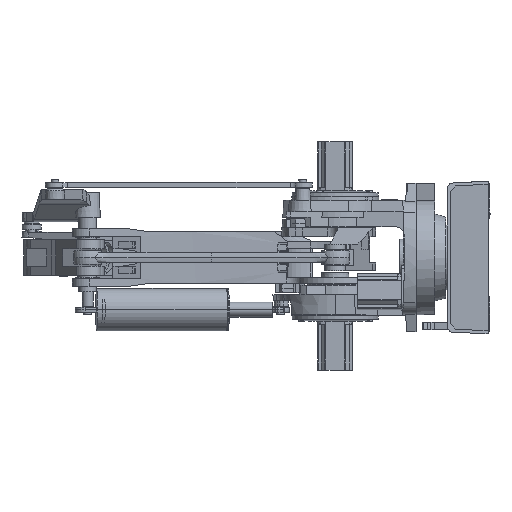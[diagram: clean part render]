
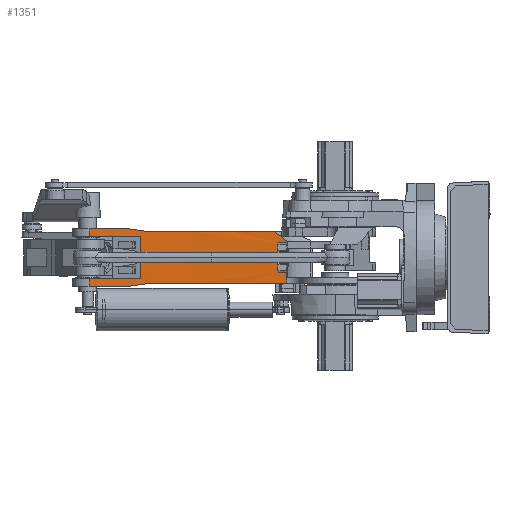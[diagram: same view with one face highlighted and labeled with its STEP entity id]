
A CAD part, left-side view. The second image highlights one B-rep face of the part: STEP entity #1351.
In plain terms, the highlighted cylindrical face has radius 8500 mm (diameter 17000 mm), a partial arc.
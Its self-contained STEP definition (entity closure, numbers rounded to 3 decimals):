
#1351=ADVANCED_FACE('',(#4245),#4246,.F.);
#4245=FACE_OUTER_BOUND('',#9893,.T.);
#4246=CYLINDRICAL_SURFACE('',#9894,8500.0);
#9893=EDGE_LOOP('',(#24427,#24428,#24429,#24430,#24431,#24432,#24433,#24434,#24435,#24436,#24437,#24438,#24439,#24440,#24441,#24442,#24443));
#9894=AXIS2_PLACEMENT_3D('',#24444,#24445,#24446);
#24427=ORIENTED_EDGE('',*,*,#30933,.F.);
#24428=ORIENTED_EDGE('',*,*,#30934,.F.);
#24429=ORIENTED_EDGE('',*,*,#30909,.T.);
#24430=ORIENTED_EDGE('',*,*,#30911,.T.);
#24431=ORIENTED_EDGE('',*,*,#30913,.F.);
#24432=ORIENTED_EDGE('',*,*,#30915,.F.);
#24433=ORIENTED_EDGE('',*,*,#30817,.F.);
#24434=ORIENTED_EDGE('',*,*,#30921,.F.);
#24435=ORIENTED_EDGE('',*,*,#30935,.F.);
#24436=ORIENTED_EDGE('',*,*,#30927,.F.);
#24437=ORIENTED_EDGE('',*,*,#30821,.F.);
#24438=ORIENTED_EDGE('',*,*,#30931,.F.);
#24439=ORIENTED_EDGE('',*,*,#30872,.F.);
#24440=ORIENTED_EDGE('',*,*,#30877,.F.);
#24441=ORIENTED_EDGE('',*,*,#30936,.F.);
#24442=ORIENTED_EDGE('',*,*,#30937,.F.);
#24443=ORIENTED_EDGE('',*,*,#30938,.F.);
#24444=CARTESIAN_POINT('',(-8237.697,1239.18,132.5));
#24445=DIRECTION('',(0.0,0.,1.0));
#24446=DIRECTION('',(0.0,1.0,0.));
#30817=EDGE_CURVE('',#37005,#37001,#37007,.T.);
#30821=EDGE_CURVE('',#37013,#37009,#37015,.T.);
#30872=EDGE_CURVE('',#37114,#37116,#37117,.T.);
#30877=EDGE_CURVE('',#37122,#37114,#37124,.T.);
#30909=EDGE_CURVE('',#37179,#37182,#37184,.T.);
#30911=EDGE_CURVE('',#37182,#37185,#37187,.T.);
#30913=EDGE_CURVE('',#37188,#37185,#37190,.T.);
#30915=EDGE_CURVE('',#37001,#37188,#37192,.T.);
#30921=EDGE_CURVE('',#37199,#37005,#37201,.T.);
#30927=EDGE_CURVE('',#37009,#37209,#37210,.T.);
#30931=EDGE_CURVE('',#37116,#37013,#37214,.T.);
#30933=EDGE_CURVE('',#37216,#37217,#37218,.T.);
#30934=EDGE_CURVE('',#37179,#37216,#37219,.T.);
#30935=EDGE_CURVE('',#37209,#37199,#37220,.T.);
#30936=EDGE_CURVE('',#37221,#37122,#37222,.T.);
#30937=EDGE_CURVE('',#37223,#37221,#37224,.T.);
#30938=EDGE_CURVE('',#37217,#37223,#37225,.T.);
#37001=VERTEX_POINT('',#50010);
#37005=VERTEX_POINT('',#50015);
#37007=LINE('',#50017,#50018);
#37009=VERTEX_POINT('',#50020);
#37013=VERTEX_POINT('',#50025);
#37015=LINE('',#50027,#50028);
#37114=VERTEX_POINT('',#50178);
#37116=VERTEX_POINT('',#50181);
#37117=B_SPLINE_CURVE_WITH_KNOTS('',3,(#50182,#50183,#50184,#50185),.UNSPECIFIED.,.F.,.F.,(4,4),(0.0,1.0),.UNSPECIFIED.);
#37122=VERTEX_POINT('',#50191);
#37124=CIRCLE('',#50193,8500.0);
#37179=VERTEX_POINT('',#50272);
#37182=VERTEX_POINT('',#50288);
#37184=B_SPLINE_CURVE_WITH_KNOTS('',3,(#50300,#50301,#50302,#50303,#50304,#50305,#50306,#50307),.UNSPECIFIED.,.F.,.F.,(4,2,2,4),(0.,0.019,0.038,0.077),.UNSPECIFIED.);
#37185=VERTEX_POINT('',#50308);
#37187=CIRCLE('',#50311,8500.0);
#37188=VERTEX_POINT('',#50312);
#37190=B_SPLINE_CURVE_WITH_KNOTS('',3,(#50315,#50316,#50317,#50318),.UNSPECIFIED.,.F.,.F.,(4,4),(0.0,1.0),.UNSPECIFIED.);
#37192=CIRCLE('',#50320,8500.0);
#37199=VERTEX_POINT('',#50329);
#37201=CIRCLE('',#50332,8500.0);
#37209=VERTEX_POINT('',#50343);
#37210=CIRCLE('',#50344,8500.0);
#37214=CIRCLE('',#50349,8500.0);
#37216=VERTEX_POINT('',#50351);
#37217=VERTEX_POINT('',#50352);
#37218=B_SPLINE_CURVE_WITH_KNOTS('',3,(#50353,#50354,#50355,#50356),.UNSPECIFIED.,.F.,.F.,(4,4),(0.0,1.0),.UNSPECIFIED.);
#37219=LINE('',#50357,#50358);
#37220=LINE('',#50359,#50360);
#37221=VERTEX_POINT('',#50361);
#37222=LINE('',#50362,#50363);
#37223=VERTEX_POINT('',#50364);
#37224=B_SPLINE_CURVE_WITH_KNOTS('',3,(#50365,#50366,#50367,#50368),.UNSPECIFIED.,.F.,.F.,(4,4),(0.0,1.0),.UNSPECIFIED.);
#37225=LINE('',#50369,#50370);
#50010=CARTESIAN_POINT('',(221.38,2072.257,148.));
#50015=CARTESIAN_POINT('',(221.38,2072.257,110.));
#50017=CARTESIAN_POINT('',(221.38,2072.257,132.5));
#50018=VECTOR('',#59554,1000.0);
#50020=CARTESIAN_POINT('',(221.38,2072.257,-110.));
#50025=CARTESIAN_POINT('',(221.38,2072.257,-148.));
#50027=CARTESIAN_POINT('',(221.38,2072.257,132.5));
#50028=VECTOR('',#59562,1000.0);
#50178=CARTESIAN_POINT('',(246.638,1755.0,-132.5));
#50181=CARTESIAN_POINT('',(239.213,1865.288,-148.));
#50182=CARTESIAN_POINT('',(246.638,1755.0,-132.5));
#50183=CARTESIAN_POINT('',(244.402,1791.779,-137.669));
#50184=CARTESIAN_POINT('',(241.927,1828.542,-142.836));
#50185=CARTESIAN_POINT('',(239.213,1865.288,-148.));
#50191=CARTESIAN_POINT('',(260.228,1051.331,-132.5));
#50193=AXIS2_PLACEMENT_3D('',#59668,#59669,#59670);
#50272=CARTESIAN_POINT('',(260.228,1051.331,86.226));
#50288=CARTESIAN_POINT('',(261.361,1112.621,132.5));
#50300=CARTESIAN_POINT('',(260.228,1051.331,86.226));
#50301=CARTESIAN_POINT('',(260.337,1056.292,90.272));
#50302=CARTESIAN_POINT('',(260.444,1061.302,94.254));
#50303=CARTESIAN_POINT('',(260.649,1071.401,102.12));
#50304=CARTESIAN_POINT('',(260.748,1076.49,106.005));
#50305=CARTESIAN_POINT('',(261.033,1091.842,117.538));
#50306=CARTESIAN_POINT('',(261.206,1102.195,125.071));
#50307=CARTESIAN_POINT('',(261.361,1112.621,132.5));
#50308=CARTESIAN_POINT('',(246.638,1755.0,132.5));
#50311=AXIS2_PLACEMENT_3D('',#59711,#59712,#59713);
#50312=CARTESIAN_POINT('',(239.213,1865.288,148.));
#50315=CARTESIAN_POINT('',(239.213,1865.288,148.));
#50316=CARTESIAN_POINT('',(241.927,1828.542,142.836));
#50317=CARTESIAN_POINT('',(244.402,1791.779,137.669));
#50318=CARTESIAN_POINT('',(246.638,1755.0,132.5));
#50320=AXIS2_PLACEMENT_3D('',#59718,#59719,#59720);
#50329=CARTESIAN_POINT('',(243.39,1805.904,110.));
#50332=AXIS2_PLACEMENT_3D('',#59730,#59731,#59732);
#50343=CARTESIAN_POINT('',(243.39,1805.904,-110.));
#50344=AXIS2_PLACEMENT_3D('',#59742,#59743,#59744);
#50349=AXIS2_PLACEMENT_3D('',#59752,#59753,#59754);
#50351=CARTESIAN_POINT('',(260.228,1051.331,76.72));
#50352=CARTESIAN_POINT('',(261.093,1095.73,76.668));
#50353=CARTESIAN_POINT('',(260.228,1051.331,76.72));
#50354=CARTESIAN_POINT('',(260.555,1066.13,76.71));
#50355=CARTESIAN_POINT('',(260.843,1080.93,76.692));
#50356=CARTESIAN_POINT('',(261.093,1095.73,76.668));
#50357=CARTESIAN_POINT('',(260.228,1051.331,132.5));
#50358=VECTOR('',#59758,1000.0);
#50359=CARTESIAN_POINT('',(243.39,1805.904,132.5));
#50360=VECTOR('',#59759,1000.0);
#50361=CARTESIAN_POINT('',(260.228,1051.331,-76.72));
#50362=CARTESIAN_POINT('',(260.228,1051.331,132.5));
#50363=VECTOR('',#59760,1000.0);
#50364=CARTESIAN_POINT('',(261.093,1095.73,-76.668));
#50365=CARTESIAN_POINT('',(261.093,1095.73,-76.668));
#50366=CARTESIAN_POINT('',(260.843,1080.93,-76.692));
#50367=CARTESIAN_POINT('',(260.555,1066.13,-76.71));
#50368=CARTESIAN_POINT('',(260.228,1051.331,-76.72));
#50369=CARTESIAN_POINT('',(261.093,1095.73,132.5));
#50370=VECTOR('',#59761,1000.0);
#59554=DIRECTION('',(-0.0,0.,1.0));
#59562=DIRECTION('',(-0.0,0.,1.0));
#59668=CARTESIAN_POINT('',(-8237.697,1239.18,-132.5));
#59669=DIRECTION('',(0.,0.,1.0));
#59670=DIRECTION('',(0.,1.0,0.));
#59711=CARTESIAN_POINT('',(-8237.697,1239.18,132.5));
#59712=DIRECTION('',(0.0,0.,1.0));
#59713=DIRECTION('',(0.0,1.0,0.));
#59718=CARTESIAN_POINT('',(-8237.697,1239.18,148.));
#59719=DIRECTION('',(0.0,0.,-1.0));
#59720=DIRECTION('',(0.0,1.0,0.));
#59730=CARTESIAN_POINT('',(-8237.697,1239.18,110.));
#59731=DIRECTION('',(0.0,0.,1.0));
#59732=DIRECTION('',(0.0,1.0,0.));
#59742=CARTESIAN_POINT('',(-8237.697,1239.18,-110.));
#59743=DIRECTION('',(0.0,0.,-1.0));
#59744=DIRECTION('',(0.0,1.0,0.));
#59752=CARTESIAN_POINT('',(-8237.697,1239.18,-148.));
#59753=DIRECTION('',(0.,0.,1.0));
#59754=DIRECTION('',(0.,1.0,0.));
#59758=DIRECTION('',(0.0,0.,-1.0));
#59759=DIRECTION('',(-0.0,0.,1.0));
#59760=DIRECTION('',(0.0,0.,-1.0));
#59761=DIRECTION('',(0.0,0.,-1.0));
